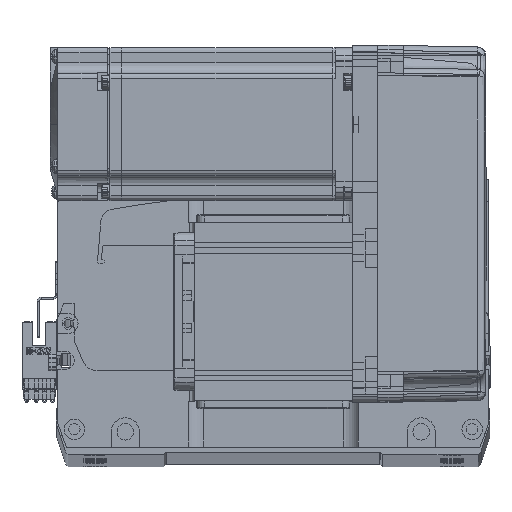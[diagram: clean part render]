
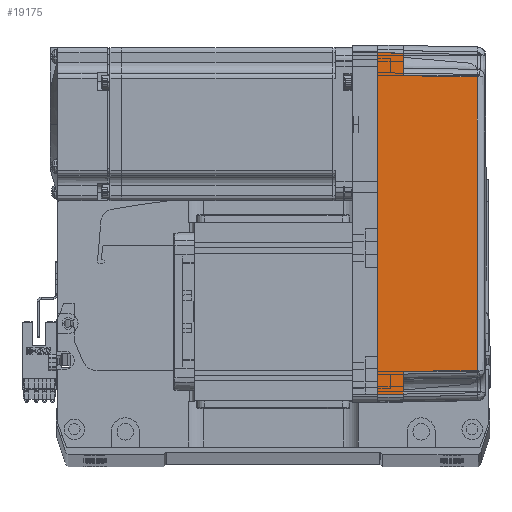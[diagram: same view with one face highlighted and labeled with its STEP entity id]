
A CAD part, top view. The second image highlights one B-rep face of the part: STEP entity #19175.
In plain terms, the highlighted planar face has unit normal (0.018, 0, 1) as drawn and (0, -1, 0.017) by its records, which use the part's own axes.
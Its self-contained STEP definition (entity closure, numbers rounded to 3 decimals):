
#46 = LINE ( 'NONE', #5378, #68570 ) ;
#1326 = VERTEX_POINT ( 'NONE', #31635 ) ;
#1355 = CARTESIAN_POINT ( 'NONE',  ( 58., -35.825, 10. ) ) ;
#1473 = EDGE_CURVE ( 'NONE', #52828, #58745, #9620, .T. ) ;
#1514 = CARTESIAN_POINT ( 'NONE',  ( 57.495, -35.32, 38.985 ) ) ;
#1902 = VERTEX_POINT ( 'NONE', #15942 ) ;
#2810 = CARTESIAN_POINT ( 'NONE',  ( -57.495, -35.32, 38.985 ) ) ;
#2898 = DIRECTION ( 'NONE',  ( -0.017, 0.017, 1. ) ) ;
#2908 = DIRECTION ( 'NONE',  ( -1., 0., 0. ) ) ;
#5378 = CARTESIAN_POINT ( 'NONE',  ( 70., -35.825, 10. ) ) ;
#5486 = CARTESIAN_POINT ( 'NONE',  ( -57.495, -35.32, 38.985 ) ) ;
#5723 = CARTESIAN_POINT ( 'NONE',  ( 57.495, -35.32, 38.985 ) ) ;
#5839 = DIRECTION ( 'NONE',  ( -1., 0., 0. ) ) ;
#6873 = ORIENTED_EDGE ( 'NONE', *, *, #64780, .T. ) ;
#8824 = EDGE_CURVE ( 'NONE', #1902, #1326, #21329, .T. ) ;
#9620 = B_SPLINE_CURVE_WITH_KNOTS ( 'NONE', 3,
 ( #5723, #43942, #49113, #5486 ),
 .UNSPECIFIED., .F., .F.,
 ( 4, 4 ),
 ( 0., 1. ),
 .UNSPECIFIED. ) ;
#10541 = LINE ( 'NONE', #20661, #64708 ) ;
#10958 = VECTOR ( 'NONE', #11735, 1000. ) ;
#11735 = DIRECTION ( 'NONE',  ( -1., 0., 0. ) ) ;
#11848 = DIRECTION ( 'NONE',  ( 0., -0.017, -1. ) ) ;
#14213 = LINE ( 'NONE', #52851, #35389 ) ;
#15942 = CARTESIAN_POINT ( 'NONE',  ( 67., -36., 0. ) ) ;
#16205 = LINE ( 'NONE', #18764, #63621 ) ;
#17705 = CARTESIAN_POINT ( 'NONE',  ( -58., -35.825, 10. ) ) ;
#18764 = CARTESIAN_POINT ( 'NONE',  ( -66.959, -35.958, 2.39 ) ) ;
#19175 = ADVANCED_FACE ( 'NONE', ( #35582 ), #44696, .T. ) ;
#19551 = EDGE_LOOP ( 'NONE', ( #63005, #57511, #49454, #47303, #6873, #58060, #44293, #64956 ) ) ;
#20661 = CARTESIAN_POINT ( 'NONE',  ( 67., -36., 0. ) ) ;
#21124 = DIRECTION ( 'NONE',  ( -0.017, -0.017, -1. ) ) ;
#21329 = LINE ( 'NONE', #67724, #30595 ) ;
#23284 = DIRECTION ( 'NONE',  ( 0.017, 0.017, 1. ) ) ;
#25071 = EDGE_CURVE ( 'NONE', #1326, #36899, #16205, .T. ) ;
#25248 = LINE ( 'NONE', #60195, #10958 ) ;
#30595 = VECTOR ( 'NONE', #2908, 1000. ) ;
#31277 = CARTESIAN_POINT ( 'NONE',  ( 66.826, -35.825, 10. ) ) ;
#31635 = CARTESIAN_POINT ( 'NONE',  ( -67., -36., 0. ) ) ;
#33298 = DIRECTION ( 'NONE',  ( 0., -1., 0.017 ) ) ;
#35224 = VERTEX_POINT ( 'NONE', #17705 ) ;
#35389 = VECTOR ( 'NONE', #21124, 1000. ) ;
#35582 = FACE_OUTER_BOUND ( 'NONE', #19551, .T. ) ;
#36418 = LINE ( 'NONE', #62684, #60119 ) ;
#36899 = VERTEX_POINT ( 'NONE', #43737 ) ;
#43737 = CARTESIAN_POINT ( 'NONE',  ( -66.826, -35.825, 10. ) ) ;
#43942 = CARTESIAN_POINT ( 'NONE',  ( 19.165, -35.316, 39.181 ) ) ;
#44179 = EDGE_CURVE ( 'NONE', #1902, #51692, #10541, .T. ) ;
#44293 = ORIENTED_EDGE ( 'NONE', *, *, #25071, .F. ) ;
#44696 = PLANE ( 'NONE',  #53771 ) ;
#46028 = EDGE_CURVE ( 'NONE', #47818, #52828, #36418, .T. ) ;
#47303 = ORIENTED_EDGE ( 'NONE', *, *, #1473, .T. ) ;
#47705 = EDGE_CURVE ( 'NONE', #35224, #36899, #25248, .T. ) ;
#47818 = VERTEX_POINT ( 'NONE', #1355 ) ;
#49113 = CARTESIAN_POINT ( 'NONE',  ( -19.165, -35.316, 39.181 ) ) ;
#49454 = ORIENTED_EDGE ( 'NONE', *, *, #46028, .T. ) ;
#51692 = VERTEX_POINT ( 'NONE', #31277 ) ;
#52828 = VERTEX_POINT ( 'NONE', #1514 ) ;
#52851 = CARTESIAN_POINT ( 'NONE',  ( -57.495, -35.32, 38.985 ) ) ;
#53544 = DIRECTION ( 'NONE',  ( -0.017, 0.017, 1. ) ) ;
#53771 = AXIS2_PLACEMENT_3D ( 'NONE', #60797, #33298, #11848 ) ;
#56785 = EDGE_CURVE ( 'NONE', #51692, #47818, #46, .T. ) ;
#57511 = ORIENTED_EDGE ( 'NONE', *, *, #56785, .T. ) ;
#58060 = ORIENTED_EDGE ( 'NONE', *, *, #47705, .T. ) ;
#58745 = VERTEX_POINT ( 'NONE', #2810 ) ;
#60119 = VECTOR ( 'NONE', #2898, 1000. ) ;
#60195 = CARTESIAN_POINT ( 'NONE',  ( 70., -35.825, 10. ) ) ;
#60797 = CARTESIAN_POINT ( 'NONE',  ( 70., -36., 0. ) ) ;
#62684 = CARTESIAN_POINT ( 'NONE',  ( 58., -35.825, 10. ) ) ;
#63005 = ORIENTED_EDGE ( 'NONE', *, *, #44179, .T. ) ;
#63621 = VECTOR ( 'NONE', #23284, 1000. ) ;
#64708 = VECTOR ( 'NONE', #53544, 1000. ) ;
#64780 = EDGE_CURVE ( 'NONE', #58745, #35224, #14213, .T. ) ;
#64956 = ORIENTED_EDGE ( 'NONE', *, *, #8824, .F. ) ;
#67724 = CARTESIAN_POINT ( 'NONE',  ( 0., -36., 0. ) ) ;
#68570 = VECTOR ( 'NONE', #5839, 1000. ) ;
